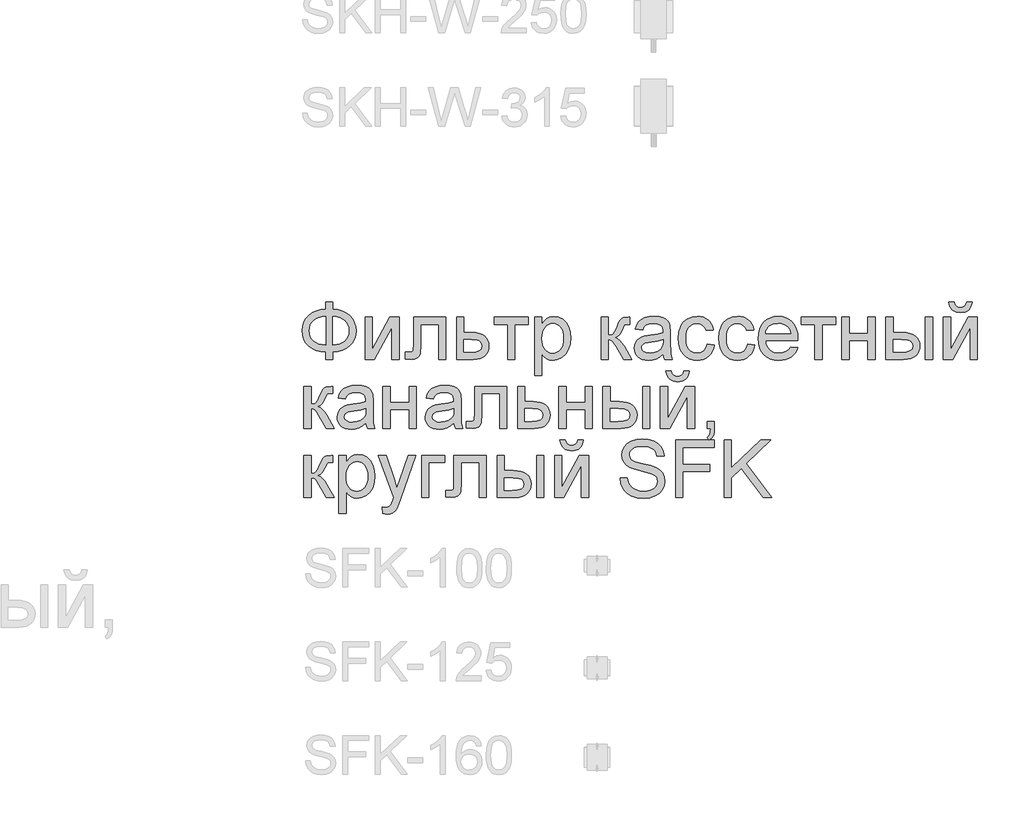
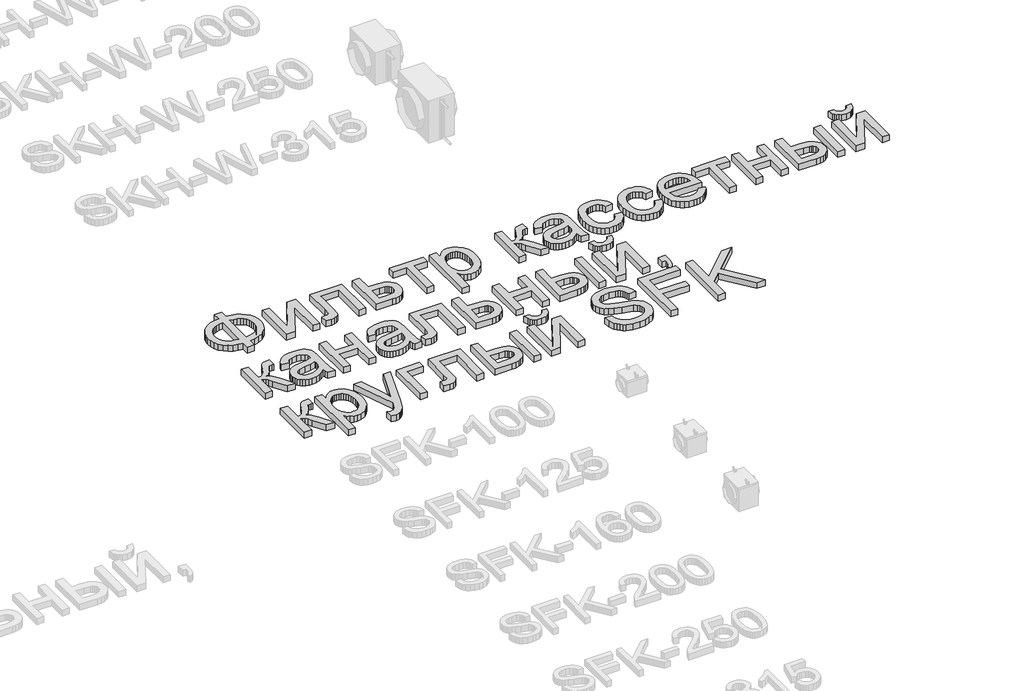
# One storey, part 14 of 31: 1 proxy.
"""IFC4 building model written with IfcOpenShell, lengths in millimetres."""

from ifc_helpers import new_model, si_unit, origin, origin_with_axes, place, context, project, spatial, polyline, outline, extrude, element, save

model = new_model("IFC4")

# Units and contexts
model_context = context("Model", 3, world=origin())
ifc_project = project(units=[si_unit("LENGTHUNIT", "METRE", prefix="MILLI")], contexts=[model_context])

# Site, building, storey
site = spatial("IfcSite", under=ifc_project)
building = spatial("IfcBuilding", under=site)
storey = spatial("IfcBuildingStorey", under=building, Name="Этаж 01", Elevation=0.0)

# Proxy
placement = place(None, origin())
element("IfcBuildingElementProxy", 1, Name="450 мм Arial", ObjectType="450 мм Arial", at=placement, inside=storey, context=model_context, shape_type="SweptSolid", body=[
    extrude(outline(polyline([(10580.6804655, -7888.9373317), (10580.6804655, -7832.7303139), (10636.8874833, -7832.7303139), (10636.8874833, -7888.9373317), (10676.9809536, -7893.8911241), (10712.6214998, -7904.1417692), (10743.8091218, -7919.689267), (10770.5438197, -7940.5336176), (10791.988526, -7965.4603872), (10807.3061734, -7993.2551417), (10816.4967619, -8023.9178813), (10819.5602913, -8057.4486059), (10816.5928188, -8090.3069322), (10807.6904011, -8120.5991665), (10792.8530383, -8148.325309), (10772.0807303, -8173.4853596), (10745.826317, -8194.686493), (10714.5426381, -8210.5358841), (10678.2296935, -8221.0335327), (10636.8874833, -8226.1794388), (10636.8874833, -8282.3864567), (10580.6804655, -8282.3864567), (10580.6804655, -8226.1794388), (10543.1290728, -8221.9906712), (10508.8573377, -8212.4981896), (10477.8652601, -8197.7019941), (10450.15284, -8177.6020845), (10427.3393226, -8153.0286673), (10411.0439531, -8124.8119484), (10401.2667313, -8092.951928), (10398.0076574, -8057.4486059), (10401.2564395, -8021.7840455), (10411.0027858, -7989.8794273), (10427.2466963, -7961.7347511), (10449.988171, -7937.350017), (10477.649132, -7917.4456519), (10508.6515014, -7902.7420827), (10542.9952792, -7893.2393093), (10580.6804655, -7888.9373317)]), holes=[polyline([(10636.8874833, -7945.1443496), (10636.8874833, -8169.972421), (10664.7439887, -8166.991226), (10689.4717832, -8160.682345), (10711.0708667, -8151.0457781), (10729.5412393, -8138.0815251), (10744.3340043, -8122.0777569), (10754.9002649, -8103.3226442), (10761.2400213, -8081.816187), (10763.3532735, -8057.5583853), (10761.277758, -8033.6745194), (10755.0512115, -8012.4116351), (10744.6736341, -7993.7697323), (10730.1450256, -7977.7488111), (10711.8633363, -7964.6782094), (10690.2265161, -7954.8872653), (10665.2345651, -7948.3759787), (10636.8874833, -7945.1443496)]), polyline([(10580.6804655, -7945.1443496), (10553.7605149, -7947.9711674), (10529.5370193, -7954.1462548), (10508.0099784, -7963.6696118), (10489.1793924, -7976.5412385), (10473.8823287, -7992.5141312), (10462.9558546, -8011.3412866), (10456.3999701, -8033.0227046), (10454.2146753, -8057.5583853), (10456.3725253, -8081.8710767), (10462.8460752, -8103.4324235), (10473.6353252, -8122.2424259), (10488.7402751, -8138.3010838), (10507.433637, -8151.2927816), (10528.9881226, -8160.9019037), (10553.4037321, -8167.1284502), (10580.6804655, -8169.972421), (10580.6804655, -7945.1443496)])]), origin_with_axes(), (0.0, 0.0, 1.0), 50.0),
    extrude(outline(polyline([(10889.8190636, -7952.1702268), (10946.0260815, -7952.1702268), (10946.0260815, -8204.0040138), (11084.1284808, -7952.1702268), (11156.8023984, -7952.1702268), (11156.8023984, -8282.3864567), (11100.5953806, -8282.3864567), (11100.5953806, -8032.0895803), (10963.3712159, -8282.3864567), (10889.8190636, -8282.3864567), (10889.8190636, -7952.1702268)])), origin_with_axes(), (0.0, 0.0, 1.0), 50.0),
    extrude(outline(polyline([(11269.2164341, -7952.1702268), (11522.1480145, -7952.1702268), (11522.1480145, -8282.0571187), (11465.9409966, -8282.0571187), (11465.9409966, -8008.3772447), (11325.423452, -8008.3772447), (11325.423452, -8165.9105857), (11321.6360651, -8238.5845033), (11314.5415757, -8255.0376807), (11300.8328817, -8269.2678265), (11280.0296983, -8279.1067992), (11251.6517411, -8282.3864567), (11205.9835391, -8279.5321941), (11205.9835391, -8226.1794388), (11231.123006, -8226.1794388), (11256.5369213, -8222.7213899), (11262.8904002, -8218.2478821), (11266.6915095, -8211.7434567), (11269.2164341, -8162.7269851), (11269.2164341, -7952.1702268)])), origin_with_axes(), (0.0, 0.0, 1.0), 50.0),
    extrude(outline(polyline([(11606.4585413, -7952.1702268), (11662.6655591, -7952.1702268), (11662.6655591, -8071.6101397), (11727.4353648, -8071.6101397), (11757.3365103, -8073.3700397), (11783.587493, -8078.6497394), (11806.1883129, -8087.449239), (11825.1389701, -8099.7685383), (11840.1238489, -8115.1822426), (11850.8273337, -8133.2649569), (11857.2494246, -8154.0166812), (11859.3901216, -8177.4374155), (11857.5684708, -8198.3332252), (11852.1035184, -8217.6578182), (11842.9952645, -8235.4111945), (11830.243709, -8251.5933541), (11813.4852079, -8265.0653365), (11792.3561171, -8274.6881811), (11766.8564367, -8280.4618878), (11736.9861667, -8282.3864567), (11606.4585413, -8282.3864567), (11606.4585413, -7952.1702268)]), holes=[polyline([(11662.6655591, -8226.1794388), (11715.1400797, -8226.1794388), (11755.8544893, -8223.2291193), (11782.928817, -8214.3781607), (11798.1195321, -8199.2697801), (11803.1831037, -8177.5471949), (11799.436884, -8159.1866016), (11788.198225, -8142.9667054), (11778.431295, -8136.3387782), (11764.1153841, -8131.6045445), (11721.8366189, -8127.8171576), (11662.6655591, -8127.8171576), (11662.6655591, -8226.1794388)])]), origin_with_axes(), (0.0, 0.0, 1.0), 50.0),
    extrude(outline(polyline([(11901.545385, -7952.1702268), (12168.5287198, -7952.1702268), (12168.5287198, -8008.3772447), (12063.1405613, -8008.3772447), (12063.1405613, -8282.3864567), (12006.9335435, -8282.3864567), (12006.9335435, -8008.3772447), (11901.545385, -8008.3772447), (11901.545385, -7952.1702268)])), origin_with_axes(), (0.0, 0.0, 1.0), 50.0),
    extrude(outline(polyline([(12217.7098604, -8408.8522469), (12217.7098604, -7952.1702268), (12273.9168783, -7952.1702268), (12273.9168783, -8007.2794513), (12292.2500267, -7980.0953443), (12312.7787617, -7960.678125), (12336.710656, -7949.0277934), (12365.2532823, -7945.1443496), (12403.2643759, -7950.5784265), (12436.5000686, -7966.8806573), (12463.5606738, -7993.0630279), (12483.0465052, -8028.1375244), (12494.8203386, -8069.5517773), (12498.7449497, -8114.7534171), (12494.3126091, -8162.823042), (12481.0155876, -8205.8153728), (12459.2792799, -8241.5485453), (12429.529081, -8267.8406952), (12394.8799794, -8284.0194242), (12358.4469637, -8289.4123339), (12332.6076535, -8285.8033384), (12309.5402714, -8274.9763518), (12289.7937141, -8258.6329538), (12273.9168783, -8238.474724), (12273.9168783, -8408.8522469), (12217.7098604, -8408.8522469)]), holes=[polyline([(12273.9168783, -8119.9130457), (12275.4366359, -8147.0010958), (12279.9959087, -8170.301759), (12287.5946969, -8189.8150352), (12298.2330002, -8205.5409245), (12311.0394454, -8217.6440958), (12325.1426589, -8226.2892182), (12340.5426408, -8231.4762916), (12357.239391, -8233.2053161), (12374.1762836, -8231.4145407), (12389.857575, -8226.0422147), (12404.2832653, -8217.0883379), (12417.4533545, -8204.5529105), (12428.4278571, -8188.2575409), (12436.2667875, -8168.0238378), (12440.9701457, -8143.8518012), (12442.5379318, -8115.7414311), (12441.0078824, -8088.8866621), (12436.4177341, -8065.6271662), (12428.7674869, -8045.9629434), (12418.0571408, -8029.8939937), (12405.2198202, -8017.4065947), (12391.1886494, -8008.487024), (12375.9636283, -8003.1352816), (12359.544757, -8001.3513674), (12343.1773448, -8003.2484915), (12327.7773629, -8008.9398637), (12313.3448114, -8018.4254841), (12299.8796902, -8031.7053527), (12288.52096, -8048.6010779), (12280.4075812, -8068.9342685), (12275.539554, -8092.7049245), (12273.9168783, -8119.9130457)])]), origin_with_axes(), (0.0, 0.0, 1.0), 50.0),
    extrude(outline(polyline([(12737.6247755, -7952.1702268), (12793.8317934, -7952.1702268), (12793.8317934, -8092.6877714), (12816.6933392, -8090.1628468), (12831.4861042, -8082.5880729), (12844.5772895, -8062.8277932), (12862.3340964, -8023.7463511), (12876.6465768, -7991.7868432), (12887.9675704, -7972.9734102), (12898.533831, -7962.7227651), (12910.5821127, -7956.4516207), (12951.6944724, -7952.1702268), (12962.4528469, -7952.1702268), (12962.4528469, -8008.7065827), (12947.3032992, -8008.3772447), (12929.7386061, -8009.8592656), (12919.8584662, -8014.3053286), (12900.5373038, -8051.3009634), (12888.6674136, -8075.9601458), (12877.8678718, -8091.3155298), (12864.7904089, -8101.5661749), (12846.0867553, -8110.9111405), (12863.8984519, -8118.8221136), (12881.5454794, -8132.7846724), (12899.027838, -8152.7988168), (12916.3455276, -8178.8645469), (12976.5046014, -8282.3864567), (12912.6130303, -8282.3864567), (12853.6615292, -8181.0601335), (12837.7435261, -8154.0955851), (12824.0211096, -8138.1913044), (12810.161469, -8130.4106943), (12793.8317934, -8127.8171576), (12793.8317934, -8282.3864567), (12737.6247755, -8282.3864567), (12737.6247755, -7952.1702268)])), origin_with_axes(), (0.0, 0.0, 1.0), 50.0),
    extrude(outline(polyline([(13222.4103045, -8240.2311933), (13195.5555355, -8263.2574081), (13167.9048663, -8278.3246214), (13138.8270658, -8286.6404058), (13107.6909028, -8289.4123339), (13082.6646458, -8287.7450603), (13060.7190713, -8282.7432395), (13041.8541792, -8274.4068715), (13026.0699697, -8262.7359563), (13013.6065849, -8248.4715044), (13004.7041672, -8232.3545262), (12999.3627166, -8214.3850219), (12997.5822331, -8194.5629913), (13000.2718267, -8171.2623281), (13008.3406076, -8150.1023619), (13020.7868393, -8131.9887722), (13036.6087855, -8117.8272384), (13055.2026598, -8107.1237536), (13075.964676, -8099.3843107), (13124.5969199, -8090.9313021), (13182.0664001, -8082.0391763), (13222.0809665, -8071.6101397), (13222.4103045, -8059.0952959), (13218.5405831, -8034.0107186), (13206.9314187, -8017.5987085), (13180.9686068, -8005.4132027), (13144.796317, -8001.3513674), (13111.3136208, -8004.0546835), (13087.9306231, -8012.1646316), (13071.9851752, -8027.1632328), (13060.8151282, -8050.532508), (13004.6081103, -8043.5066308), (13014.3647484, -8012.7684179), (13028.9242323, -7988.6169649), (13049.6450812, -7970.1465924), (13077.8858143, -7956.4516207), (13112.4251365, -7947.9711674), (13152.0417529, -7945.1443496), (13190.0391241, -7947.6418294), (13220.1598282, -7955.1342688), (13242.8704275, -7966.4003727), (13258.637484, -7980.2188461), (13269.0939653, -7997.3032546), (13275.8728391, -8018.3671638), (13278.6173224, -8067.5483045), (13278.6173224, -8137.4777388), (13281.471585, -8235.1264544), (13292.6690768, -8282.3864567), (13236.462059, -8282.3864567), (13227.4601538, -8262.8457356), (13222.4103045, -8240.2311933)]), holes=[polyline([(13222.4103045, -8127.8171576), (13184.6462144, -8137.1758456), (13131.7325765, -8145.0525127), (13083.3747809, -8154.1641972), (13070.791325, -8160.3941743), (13061.4738042, -8168.984407), (13055.7103893, -8179.2762194), (13053.789251, -8190.6109354), (13057.974588, -8207.3248386), (13070.530599, -8221.0198102), (13091.1828358, -8230.1589396), (13119.65685, -8233.2053161), (13149.8461662, -8229.843324), (13176.5225438, -8219.7573479), (13198.1490722, -8204.8959709), (13213.1888406, -8187.2077761), (13219.857935, -8168.984407), (13222.0809665, -8143.7351607), (13222.4103045, -8127.8171576)])]), origin_with_axes(), (0.0, 0.0, 1.0), 50.0),
    extrude(outline(polyline([(13566.6782889, -8162.9465438), (13622.8853067, -8169.972421), (13616.7719702, -8196.4944214), (13607.2143071, -8219.9631842), (13594.2123175, -8240.3787093), (13577.7660014, -8257.7409967), (13558.5683407, -8271.5972067), (13537.3123176, -8281.4944996), (13513.997932, -8287.4328753), (13488.625184, -8289.4123339), (13457.1013628, -8286.6506976), (13428.8366154, -8278.3657887), (13403.830942, -8264.5576071), (13382.0843425, -8245.2261529), (13364.4819128, -8220.7350701), (13351.9087487, -8191.4480028), (13344.3648503, -8157.3649509), (13341.8502174, -8118.4859144), (13346.1453338, -8068.4677064), (13359.0306829, -8025.1185928), (13368.7461537, -8006.36348), (13380.7121009, -7990.1127083), (13394.9285243, -7976.3662776), (13411.3954241, -7965.124188), (13448.1028882, -7950.1393092), (13487.8567287, -7945.1443496), (13512.79379, -7946.8596516), (13535.3500121, -7952.0055578), (13555.5253949, -7960.5820681), (13573.3199384, -7972.5891825), (13588.4317496, -7987.7524527), (13600.5589351, -8005.7974304), (13609.7014951, -8026.7241155), (13615.8594295, -8050.532508), (13559.6524116, -8057.5583853), (13549.4566562, -8033.0364271), (13533.5798203, -8015.4580116), (13512.9001387, -8004.8780285), (13488.295846, -8001.3513674), (13469.1976729, -8003.0872531), (13451.9726096, -8008.2949102), (13436.6206562, -8016.9743386), (13423.1418126, -8029.1255384), (13412.16731, -8045.029819), (13404.3283796, -8064.9684902), (13399.6250214, -8088.9415517), (13398.0572353, -8116.9490038), (13399.5907153, -8145.3784201), (13404.1911555, -8169.6293606), (13411.8585557, -8189.7018253), (13422.5929159, -8205.5958141), (13435.8041724, -8217.6749712), (13450.9022611, -8226.3029406), (13467.8871821, -8231.4797222), (13486.7589353, -8233.2053161), (13515.8641807, -8228.8964773), (13539.7274629, -8215.969961), (13557.0863197, -8194.0964291), (13566.6782889, -8162.9465438)])), origin_with_axes(), (0.0, 0.0, 1.0), 50.0),
    extrude(outline(polyline([(13882.8427643, -8162.9465438), (13939.0497821, -8169.972421), (13932.9364456, -8196.4944214), (13923.3787825, -8219.9631842), (13910.3767929, -8240.3787093), (13893.9304768, -8257.7409967), (13874.7328161, -8271.5972067), (13853.476793, -8281.4944996), (13830.1624075, -8287.4328753), (13804.7896594, -8289.4123339), (13773.2658382, -8286.6506976), (13745.0010909, -8278.3657887), (13719.9954174, -8264.5576071), (13698.2488179, -8245.2261529), (13680.6463882, -8220.7350701), (13668.0732241, -8191.4480028), (13660.5293257, -8157.3649509), (13658.0146929, -8118.4859144), (13662.3098092, -8068.4677064), (13675.1951583, -8025.1185928), (13684.9106291, -8006.36348), (13696.8765763, -7990.1127083), (13711.0929998, -7976.3662776), (13727.5598995, -7965.124188), (13764.2673636, -7950.1393092), (13804.0212041, -7945.1443496), (13828.9582654, -7946.8596516), (13851.5144875, -7952.0055578), (13871.6898703, -7960.5820681), (13889.4844138, -7972.5891825), (13904.596225, -7987.7524527), (13916.7234105, -8005.7974304), (13925.8659705, -8026.7241155), (13932.0239049, -8050.532508), (13875.816887, -8057.5583853), (13865.6211316, -8033.0364271), (13849.7442958, -8015.4580116), (13829.0646141, -8004.8780285), (13804.4603214, -8001.3513674), (13785.3621483, -8003.0872531), (13768.137085, -8008.2949102), (13752.7851316, -8016.9743386), (13739.306288, -8029.1255384), (13728.3317854, -8045.029819), (13720.492855, -8064.9684902), (13715.7894968, -8088.9415517), (13714.2217107, -8116.9490038), (13715.7551908, -8145.3784201), (13720.3556309, -8169.6293606), (13728.0230311, -8189.7018253), (13738.7573914, -8205.5958141), (13751.9686478, -8217.6749712), (13767.0667365, -8226.3029406), (13784.0516575, -8231.4797222), (13802.9234108, -8233.2053161), (13832.0286561, -8228.8964773), (13855.8919383, -8215.969961), (13873.2507952, -8194.0964291), (13882.8427643, -8162.9465438)])), origin_with_axes(), (0.0, 0.0, 1.0), 50.0),
    extrude(outline(polyline([(14219.4261954, -8184.0241754), (14274.5354199, -8191.0500527), (14266.085842, -8213.1225596), (14254.6790833, -8232.5740849), (14240.3151439, -8249.4046287), (14222.9940237, -8263.614191), (14202.8941142, -8274.9008785), (14180.1938067, -8282.9627982), (14154.8931013, -8287.79995), (14126.9919981, -8289.4123339), (14092.1164766, -8286.630114), (14061.0420645, -8278.2834542), (14033.7687618, -8264.3723545), (14010.2965684, -8244.8968149), (13991.4213846, -8220.3988709), (13977.9391104, -8191.4205579), (13969.8497459, -8157.961876), (13967.153291, -8120.022825), (13969.8771907, -8080.7972976), (13978.0488897, -8046.2236693), (13991.6683881, -8016.3019402), (14010.7356858, -7991.0321102), (14034.1461282, -7970.956215), (14060.795061, -7956.6162897), (14090.6824841, -7948.0123346), (14123.8083974, -7945.1443496), (14155.8673929, -7948.0054734), (14184.8594283, -7956.5888449), (14210.7845036, -7970.8944641), (14233.6426189, -7990.9223309), (14252.3016746, -8016.1372712), (14265.6295716, -8046.0041106), (14273.6263098, -8080.5228492), (14276.2918892, -8119.693487), (14275.9625512, -8134.8430348), (14023.3603089, -8134.8430348), (14026.6159522, -8157.2723245), (14033.0895022, -8176.9159637), (14042.7809588, -8193.7739523), (14055.6903221, -8207.8462904), (14071.1040264, -8218.9408642), (14088.308506, -8226.8655597), (14107.303761, -8231.620377), (14128.0897914, -8233.2053161), (14158.0046593, -8230.2687189), (14183.1990159, -8221.4589276), (14203.6728613, -8206.2270453), (14219.4261954, -8184.0241754)]), holes=[polyline([(14023.3603089, -8078.636017), (14220.0848714, -8078.636017), (14212.4826527, -8048.9407077), (14197.5801084, -8027.698407), (14182.2521692, -8016.1715772), (14164.8109779, -8007.9381273), (14145.2565344, -8002.9980574), (14123.5888388, -8001.3513674), (14085.7012469, -8006.6070529), (14054.3729701, -8022.3741095), (14041.9164466, -8033.7740069), (14032.5954952, -8046.9509574), (14026.410116, -8061.9049607), (14023.3603089, -8078.636017)])]), origin_with_axes(), (0.0, 0.0, 1.0), 50.0),
    extrude(outline(polyline([(14304.3953982, -7952.1702268), (14571.378733, -7952.1702268), (14571.378733, -8008.3772447), (14465.9905745, -8008.3772447), (14465.9905745, -8282.3864567), (14409.7835566, -8282.3864567), (14409.7835566, -8008.3772447), (14304.3953982, -8008.3772447), (14304.3953982, -7952.1702268)])), origin_with_axes(), (0.0, 0.0, 1.0), 50.0),
    extrude(outline(polyline([(14620.5598736, -7952.1702268), (14676.7668914, -7952.1702268), (14676.7668914, -8078.636017), (14824.3103133, -8078.636017), (14824.3103133, -7952.1702268), (14880.5173311, -7952.1702268), (14880.5173311, -8282.3864567), (14824.3103133, -8282.3864567), (14824.3103133, -8134.8430348), (14676.7668914, -8134.8430348), (14676.7668914, -8282.3864567), (14620.5598736, -8282.3864567), (14620.5598736, -7952.1702268)])), origin_with_axes(), (0.0, 0.0, 1.0), 50.0),
    extrude(outline(polyline([(15273.9664561, -7952.1702268), (15330.173474, -7952.1702268), (15330.173474, -8282.3864567), (15273.9664561, -8282.3864567), (15273.9664561, -7952.1702268)])), origin_with_axes(), (0.0, 0.0, 1.0), 50.0),
    extrude(outline(polyline([(14964.8278579, -7952.1702268), (15021.0348758, -7952.1702268), (15021.0348758, -8071.6101397), (15090.5251928, -8071.6101397), (15122.5018537, -8073.3700397), (15150.5882096, -8078.6497394), (15174.7842605, -8087.449239), (15195.0900063, -8099.7685383), (15211.1555253, -8115.1822426), (15222.6308961, -8133.2649569), (15229.5161186, -8154.0166812), (15231.8111927, -8177.4374155), (15229.8866238, -8198.3332252), (15224.1129171, -8217.6578182), (15214.4900725, -8235.4111945), (15201.0180902, -8251.5933541), (15183.3196035, -8265.0653365), (15161.0172462, -8274.6881811), (15134.1110181, -8280.4618878), (15102.6009193, -8282.3864567), (14964.8278579, -8282.3864567), (14964.8278579, -7952.1702268)]), holes=[polyline([(15021.0348758, -8226.1794388), (15078.7788043, -8226.1794388), (15123.5413268, -8223.2291193), (15153.3189705, -8214.3781607), (15170.0328738, -8199.2697801), (15175.6041749, -8177.5471949), (15171.4737275, -8159.1866016), (15159.0823854, -8142.9667054), (15148.3274415, -8136.3387782), (15132.5843992, -8131.6045445), (15086.1340195, -8127.8171576), (15021.0348758, -8127.8171576), (15021.0348758, -8226.1794388)])]), origin_with_axes(), (0.0, 0.0, 1.0), 50.0),
    extrude(outline(polyline([(15414.4840007, -7952.1702268), (15470.6910186, -7952.1702268), (15470.6910186, -8204.0040138), (15608.7934179, -7952.1702268), (15681.4673355, -7952.1702268), (15681.4673355, -8282.3864567), (15625.2603177, -8282.3864567), (15625.2603177, -8032.0895803), (15488.036153, -8282.3864567), (15414.4840007, -8282.3864567), (15414.4840007, -7952.1702268)])), origin_with_axes(), (0.0, 0.0, 1.0), 50.0),
    extrude(outline(polyline([(15597.1568088, -7832.7303139), (15639.3120722, -7832.7303139), (15630.2415549, -7868.7242123), (15622.2791227, -7883.1704862), (15612.0319082, -7895.2496433), (15599.7057476, -7904.7832921), (15585.5064772, -7911.5930413), (15551.4886068, -7917.0408407), (15514.5753065, -7911.6342086), (15499.2267836, -7904.8759185), (15485.9503457, -7895.4143123), (15474.9381065, -7883.3866143), (15466.3821798, -7868.9300485), (15456.6392641, -7832.7303139), (15498.7945275, -7832.7303139), (15504.7226114, -7851.2418537), (15514.6027513, -7864.4016511), (15528.4898368, -7872.2645957), (15546.4387575, -7874.8855773), (15566.6930442, -7872.3469302), (15581.348585, -7864.7309891), (15591.2287248, -7851.6535262), (15597.1568088, -7832.7303139)])), origin_with_axes(), (0.0, 0.0, 1.0), 50.0),
    extrude(outline(polyline([(10412.0594119, -8492.60231), (10468.2664298, -8492.60231), (10468.2664298, -8633.1198546), (10491.1279756, -8630.59493), (10505.9207405, -8623.0201561), (10519.0119258, -8603.2598764), (10536.7687328, -8564.1784343), (10551.0812131, -8532.2189263), (10562.4022067, -8513.4054934), (10572.9684674, -8503.1548482), (10585.0167491, -8496.8837039), (10626.1291088, -8492.60231), (10636.8874833, -8492.60231), (10636.8874833, -8549.1386658), (10621.7379355, -8548.8093278), (10604.1732424, -8550.2913488), (10594.2931026, -8554.7374118), (10574.9719402, -8591.7330465), (10563.10205, -8616.3922289), (10552.3025082, -8631.747613), (10539.2250453, -8641.9982581), (10520.5213917, -8651.3432237), (10538.3330882, -8659.2541968), (10555.9801158, -8673.2167555), (10573.4624744, -8693.2309), (10590.780164, -8719.29663), (10650.9392378, -8822.8185399), (10587.0476667, -8822.8185399), (10528.0961656, -8721.4922167), (10512.1781624, -8694.5276683), (10498.455746, -8678.6233876), (10484.5961053, -8670.8427775), (10468.2664298, -8668.2492408), (10468.2664298, -8822.8185399), (10412.0594119, -8822.8185399), (10412.0594119, -8492.60231)])), origin_with_axes(), (0.0, 0.0, 1.0), 50.0),
    extrude(outline(polyline([(10896.8449409, -8780.6632765), (10869.9901718, -8803.6894913), (10842.3395027, -8818.7567046), (10813.2617022, -8827.072489), (10782.1255392, -8829.8444171), (10757.0992822, -8828.1771435), (10735.1537076, -8823.1753227), (10716.2888156, -8814.8389547), (10700.5046061, -8803.1680395), (10688.0412213, -8788.9035876), (10679.1388036, -8772.7866094), (10673.797353, -8754.8171051), (10672.0168695, -8734.9950745), (10674.7064631, -8711.6944113), (10682.775244, -8690.5344451), (10695.2214757, -8672.4208554), (10711.0434219, -8658.2593216), (10729.6372962, -8647.5558367), (10750.3993123, -8639.8163939), (10799.0315563, -8631.3633853), (10856.5010365, -8622.4712594), (10896.5156029, -8612.0422229), (10896.8449409, -8599.5273791), (10892.9752194, -8574.4428018), (10881.3660551, -8558.0307917), (10855.4032431, -8545.8452859), (10819.2309533, -8541.7834506), (10785.7482572, -8544.4867667), (10762.3652595, -8552.5967148), (10746.4198116, -8567.595316), (10735.2497645, -8590.9645912), (10679.0427467, -8583.938714), (10688.7993848, -8553.2005011), (10703.3588687, -8529.0490481), (10724.0797175, -8510.5786756), (10752.3204506, -8496.8837039), (10786.8597729, -8488.4032505), (10826.4763892, -8485.5764328), (10864.4737604, -8488.0739126), (10894.5944646, -8495.5663519), (10917.3050638, -8506.8324559), (10933.0721203, -8520.6509292), (10943.5286017, -8537.7353377), (10950.3074754, -8558.799247), (10953.0519587, -8607.9803876), (10953.0519587, -8677.909822), (10955.9062214, -8775.5585376), (10967.1037132, -8822.8185399), (10910.8966953, -8822.8185399), (10901.8947901, -8803.2778188), (10896.8449409, -8780.6632765)]), holes=[polyline([(10896.8449409, -8668.2492408), (10859.0808508, -8677.6079288), (10806.1672129, -8685.4845959), (10757.8094172, -8694.5962804), (10745.2259613, -8700.8262575), (10735.9084405, -8709.4164902), (10730.1450256, -8719.7083025), (10728.2238873, -8731.0430185), (10732.4092243, -8747.7569218), (10744.9652354, -8761.4518934), (10765.6174722, -8770.5910228), (10794.0914864, -8773.6373992), (10824.2808026, -8770.2754072), (10850.9571802, -8760.1894311), (10872.5837086, -8745.3280541), (10887.623477, -8727.6398592), (10894.2925714, -8709.4164902), (10896.5156029, -8684.1672439), (10896.8449409, -8668.2492408)])]), origin_with_axes(), (0.0, 0.0, 1.0), 50.0),
    extrude(outline(polyline([(11030.3366083, -8492.60231), (11086.5436261, -8492.60231), (11086.5436261, -8619.0681002), (11234.087048, -8619.0681002), (11234.087048, -8492.60231), (11290.2940658, -8492.60231), (11290.2940658, -8822.8185399), (11234.087048, -8822.8185399), (11234.087048, -8675.275118), (11086.5436261, -8675.275118), (11086.5436261, -8822.8185399), (11030.3366083, -8822.8185399), (11030.3366083, -8492.60231)])), origin_with_axes(), (0.0, 0.0, 1.0), 50.0),
    extrude(outline(polyline([(11585.3809096, -8780.6632765), (11558.5261405, -8803.6894913), (11530.8754714, -8818.7567046), (11501.7976709, -8827.072489), (11470.6615079, -8829.8444171), (11445.6352509, -8828.1771435), (11423.6896763, -8823.1753227), (11404.8247843, -8814.8389547), (11389.0405747, -8803.1680395), (11376.57719, -8788.9035876), (11367.6747723, -8772.7866094), (11362.3333217, -8754.8171051), (11360.5528382, -8734.9950745), (11363.2424318, -8711.6944113), (11371.3112127, -8690.5344451), (11383.7574444, -8672.4208554), (11399.5793906, -8658.2593216), (11418.1732649, -8647.5558367), (11438.935281, -8639.8163939), (11487.567525, -8631.3633853), (11545.0370051, -8622.4712594), (11585.0515716, -8612.0422229), (11585.3809096, -8599.5273791), (11581.5111881, -8574.4428018), (11569.9020238, -8558.0307917), (11543.9392118, -8545.8452859), (11507.766922, -8541.7834506), (11474.2842258, -8544.4867667), (11450.9012282, -8552.5967148), (11434.9557802, -8567.595316), (11423.7857332, -8590.9645912), (11367.5787154, -8583.938714), (11377.3353535, -8553.2005011), (11391.8948374, -8529.0490481), (11412.6156862, -8510.5786756), (11440.8564193, -8496.8837039), (11475.3957416, -8488.4032505), (11515.0123579, -8485.5764328), (11553.0097291, -8488.0739126), (11583.1304333, -8495.5663519), (11605.8410325, -8506.8324559), (11621.608089, -8520.6509292), (11632.0645704, -8537.7353377), (11638.8434441, -8558.799247), (11641.5879274, -8607.9803876), (11641.5879274, -8677.909822), (11644.44219, -8775.5585376), (11655.6396819, -8822.8185399), (11599.432664, -8822.8185399), (11590.4307588, -8803.2778188), (11585.3809096, -8780.6632765)]), holes=[polyline([(11585.3809096, -8668.2492408), (11547.6168194, -8677.6079288), (11494.7031815, -8685.4845959), (11446.3453859, -8694.5962804), (11433.76193, -8700.8262575), (11424.4444092, -8709.4164902), (11418.6809943, -8719.7083025), (11416.759856, -8731.0430185), (11420.945193, -8747.7569218), (11433.5012041, -8761.4518934), (11454.1534409, -8770.5910228), (11482.6274551, -8773.6373992), (11512.8167713, -8770.2754072), (11539.4931489, -8760.1894311), (11561.1196772, -8745.3280541), (11576.1594457, -8727.6398592), (11582.8285401, -8709.4164902), (11585.0515716, -8684.1672439), (11585.3809096, -8668.2492408)])]), origin_with_axes(), (0.0, 0.0, 1.0), 50.0),
    extrude(outline(polyline([(11746.9760859, -8492.60231), (11999.9076662, -8492.60231), (11999.9076662, -8822.4892019), (11943.7006484, -8822.4892019), (11943.7006484, -8548.8093278), (11803.1831037, -8548.8093278), (11803.1831037, -8706.3426689), (11799.3957168, -8779.0165865), (11792.3012275, -8795.4697638), (11778.5925334, -8809.6999097), (11757.7893501, -8819.5388823), (11729.4113928, -8822.8185399), (11683.7431908, -8819.9642772), (11683.7431908, -8766.611522), (11708.8826578, -8766.611522), (11734.2965731, -8763.1534731), (11740.6500519, -8758.6799653), (11744.4511613, -8752.1755399), (11746.9760859, -8703.1590683), (11746.9760859, -8492.60231)])), origin_with_axes(), (0.0, 0.0, 1.0), 50.0),
    extrude(outline(polyline([(12084.218193, -8492.60231), (12140.4252109, -8492.60231), (12140.4252109, -8612.0422229), (12205.1950166, -8612.0422229), (12235.0961621, -8613.8021228), (12261.3471448, -8619.0818226), (12283.9479647, -8627.8813221), (12302.8986218, -8640.2006215), (12317.8835006, -8655.6143258), (12328.5869855, -8673.6970401), (12335.0090764, -8694.4487644), (12337.1497733, -8717.8694987), (12335.3281225, -8738.7653084), (12329.8631702, -8758.0899014), (12320.7549163, -8775.8432777), (12308.0033608, -8792.0254373), (12291.2448596, -8805.4974197), (12270.1157689, -8815.1202642), (12244.6160885, -8820.893971), (12214.7458184, -8822.8185399), (12084.218193, -8822.8185399), (12084.218193, -8492.60231)]), holes=[polyline([(12140.4252109, -8766.611522), (12192.8997314, -8766.611522), (12233.6141411, -8763.6612025), (12260.6884688, -8754.8102439), (12275.8791838, -8739.7018633), (12280.9427555, -8717.9792781), (12277.1965358, -8699.6186848), (12265.9578767, -8683.3987886), (12256.1909468, -8676.7708614), (12241.8750358, -8672.0366277), (12199.5962707, -8668.2492408), (12140.4252109, -8668.2492408), (12140.4252109, -8766.611522)])]), origin_with_axes(), (0.0, 0.0, 1.0), 50.0),
    extrude(outline(polyline([(12407.4085457, -8492.60231), (12463.6155635, -8492.60231), (12463.6155635, -8619.0681002), (12611.1589854, -8619.0681002), (12611.1589854, -8492.60231), (12667.3660032, -8492.60231), (12667.3660032, -8822.8185399), (12611.1589854, -8822.8185399), (12611.1589854, -8675.275118), (12463.6155635, -8675.275118), (12463.6155635, -8822.8185399), (12407.4085457, -8822.8185399), (12407.4085457, -8492.60231)])), origin_with_axes(), (0.0, 0.0, 1.0), 50.0),
    extrude(outline(polyline([(13060.8151282, -8492.60231), (13117.022146, -8492.60231), (13117.022146, -8822.8185399), (13060.8151282, -8822.8185399), (13060.8151282, -8492.60231)])), origin_with_axes(), (0.0, 0.0, 1.0), 50.0),
    extrude(outline(polyline([(12751.67653, -8492.60231), (12807.8835478, -8492.60231), (12807.8835478, -8612.0422229), (12877.3738648, -8612.0422229), (12909.3505258, -8613.8021228), (12937.4368817, -8619.0818226), (12961.6329326, -8627.8813221), (12981.9386783, -8640.2006215), (12998.0041974, -8655.6143258), (13009.4795682, -8673.6970401), (13016.3647906, -8694.4487644), (13018.6598648, -8717.8694987), (13016.7352959, -8738.7653084), (13010.9615892, -8758.0899014), (13001.3387446, -8775.8432777), (12987.8667622, -8792.0254373), (12970.1682756, -8805.4974197), (12947.8659182, -8815.1202642), (12920.9596901, -8820.893971), (12889.4495913, -8822.8185399), (12751.67653, -8822.8185399), (12751.67653, -8492.60231)]), holes=[polyline([(12807.8835478, -8766.611522), (12865.6274763, -8766.611522), (12910.3899989, -8763.6612025), (12940.1676426, -8754.8102439), (12956.8815459, -8739.7018633), (12962.4528469, -8717.9792781), (12958.3223996, -8699.6186848), (12945.9310575, -8683.3987886), (12935.1761136, -8676.7708614), (12919.4330713, -8672.0366277), (12872.9826916, -8668.2492408), (12807.8835478, -8668.2492408), (12807.8835478, -8766.611522)])]), origin_with_axes(), (0.0, 0.0, 1.0), 50.0),
    extrude(outline(polyline([(13201.3326728, -8492.60231), (13257.5396907, -8492.60231), (13257.5396907, -8744.436097), (13395.64209, -8492.60231), (13468.3160076, -8492.60231), (13468.3160076, -8822.8185399), (13412.1089898, -8822.8185399), (13412.1089898, -8572.5216635), (13274.8848251, -8822.8185399), (13201.3326728, -8822.8185399), (13201.3326728, -8492.60231)])), origin_with_axes(), (0.0, 0.0, 1.0), 50.0),
    extrude(outline(polyline([(13384.0054808, -8373.162397), (13426.1607442, -8373.162397), (13417.0902269, -8409.1562954), (13409.1277948, -8423.6025694), (13398.8805803, -8435.6817265), (13386.5544197, -8445.2153753), (13372.3551493, -8452.0251245), (13338.3372788, -8457.4729238), (13301.4239785, -8452.0662917), (13286.0754557, -8445.3080016), (13272.7990178, -8435.8463955), (13261.7867786, -8423.8186974), (13253.2308519, -8409.3621317), (13243.4879362, -8373.162397), (13285.6431996, -8373.162397), (13291.5712835, -8391.6739369), (13301.4514234, -8404.8337343), (13315.3385088, -8412.6966789), (13333.2874296, -8415.3176604), (13353.5417163, -8412.7790134), (13368.1972571, -8405.1630723), (13378.0773969, -8392.0856094), (13384.0054808, -8373.162397)])), origin_with_axes(), (0.0, 0.0, 1.0), 50.0),
    extrude(outline(polyline([(13566.6782889, -8822.8185399), (13566.6782889, -8766.611522), (13622.8853067, -8766.611522), (13622.8853067, -8822.8185399), (13620.3603821, -8854.9701617), (13612.7856082, -8880.28802), (13599.7218677, -8899.7052393), (13580.7300433, -8914.1549439), (13566.6782889, -8893.0773122), (13578.8637947, -8882.8952792), (13587.3168032, -8868.8160799), (13592.448987, -8849.3028037), (13594.6720184, -8822.8185399), (13566.6782889, -8822.8185399)])), origin_with_axes(), (0.0, 0.0, 1.0), 50.0),
    extrude(outline(polyline([(10412.0594119, -9033.0343932), (10468.2664298, -9033.0343932), (10468.2664298, -9173.5519378), (10491.1279756, -9171.0270132), (10505.9207405, -9163.4522393), (10519.0119258, -9143.6919596), (10536.7687328, -9104.6105175), (10551.0812131, -9072.6510095), (10562.4022067, -9053.8375765), (10572.9684674, -9043.5869314), (10585.0167491, -9037.3157871), (10626.1291088, -9033.0343932), (10636.8874833, -9033.0343932), (10636.8874833, -9089.570749), (10621.7379355, -9089.241411), (10604.1732424, -9090.723432), (10594.2931026, -9095.1694949), (10574.9719402, -9132.1651297), (10563.10205, -9156.8243121), (10552.3025082, -9172.1796961), (10539.2250453, -9182.4303412), (10520.5213917, -9191.7753069), (10538.3330882, -9199.68628), (10555.9801158, -9213.6488387), (10573.4624744, -9233.6629831), (10590.780164, -9259.7287132), (10650.9392378, -9363.250623), (10587.0476667, -9363.250623), (10528.0961656, -9261.9242998), (10512.1781624, -9234.9597515), (10498.455746, -9219.0554708), (10484.5961053, -9211.2748607), (10468.2664298, -9208.681324), (10468.2664298, -9363.250623), (10412.0594119, -9363.250623), (10412.0594119, -9033.0343932)])), origin_with_axes(), (0.0, 0.0, 1.0), 50.0),
    extrude(outline(polyline([(10686.0686239, -9489.7164132), (10686.0686239, -9033.0343932), (10742.2756418, -9033.0343932), (10742.2756418, -9088.1436177), (10760.6087902, -9060.9595107), (10781.1375252, -9041.5422914), (10805.0694195, -9029.8919598), (10833.6120458, -9026.0085159), (10871.6231394, -9031.4425929), (10904.8588321, -9047.7448236), (10931.9194374, -9073.9271942), (10951.4052687, -9109.0016907), (10963.1791021, -9150.4159436), (10967.1037132, -9195.6175835), (10962.6713727, -9243.6872084), (10949.3743511, -9286.6795392), (10927.6380434, -9322.4127116), (10897.8878445, -9348.7048616), (10863.2387429, -9364.8835906), (10826.8057272, -9370.2765003), (10800.966417, -9366.6675047), (10777.8990349, -9355.8405182), (10758.1524776, -9339.4971201), (10742.2756418, -9319.3388903), (10742.2756418, -9489.7164132), (10686.0686239, -9489.7164132)]), holes=[polyline([(10742.2756418, -9200.7772121), (10743.7953994, -9227.8652622), (10748.3546723, -9251.1659253), (10755.9534604, -9270.6792016), (10766.5917638, -9286.4050908), (10779.3982089, -9298.5082622), (10793.5014225, -9307.1533845), (10808.9014043, -9312.3404579), (10825.5981546, -9314.0694824), (10842.5350471, -9312.2787071), (10858.2163385, -9306.906381), (10872.6420288, -9297.9525043), (10885.812118, -9285.4170768), (10896.7866206, -9269.1217073), (10904.625551, -9248.8880042), (10909.3289093, -9224.7159676), (10910.8966953, -9196.6055975), (10909.3666459, -9169.7508284), (10904.7764976, -9146.4913325), (10897.1262504, -9126.8271097), (10886.4159044, -9110.75816), (10873.5785838, -9098.2707611), (10859.5474129, -9089.3511903), (10844.3223918, -9083.9994479), (10827.9035205, -9082.2155338), (10811.5361083, -9084.1126579), (10796.1361264, -9089.8040301), (10781.7035749, -9099.2896505), (10768.2384537, -9112.569519), (10756.8797235, -9129.4652443), (10748.7663448, -9149.7984349), (10743.8983175, -9173.5690908), (10742.2756418, -9200.7772121)])]), origin_with_axes(), (0.0, 0.0, 1.0), 50.0),
    extrude(outline(polyline([(11030.3366083, -9489.7164132), (11023.310731, -9435.5952027), (11051.8533573, -9440.5352726), (11066.8656809, -9438.9846395), (11078.5297349, -9434.3327403), (11094.8868553, -9417.0424956), (11110.2559618, -9375.6556875), (11114.6471351, -9362.0430504), (10995.2072221, -9033.0343932), (11054.4880613, -9033.0343932), (11117.8307357, -9216.3658772), (11139.8963814, -9289.6984708), (11161.962027, -9224.928665), (11227.0611708, -9033.0343932), (11285.9028926, -9033.0343932), (11170.9639322, -9371.1547349), (11141.103954, -9444.4873285), (11125.8171821, -9467.897771), (11108.4994925, -9484.1176673), (11088.3824299, -9493.5861347), (11064.6975391, -9496.7422904), (11030.3366083, -9489.7164132)])), origin_with_axes(), (0.0, 0.0, 1.0), 50.0),
    extrude(outline(polyline([(11332.4493292, -9033.0343932), (11515.1221372, -9033.0343932), (11515.1221372, -9089.241411), (11388.6563471, -9089.241411), (11388.6563471, -9363.250623), (11332.4493292, -9363.250623), (11332.4493292, -9033.0343932)])), origin_with_axes(), (0.0, 0.0, 1.0), 50.0),
    extrude(outline(polyline([(11585.3809096, -9033.0343932), (11838.3124899, -9033.0343932), (11838.3124899, -9362.9212851), (11782.105472, -9362.9212851), (11782.105472, -9089.241411), (11641.5879274, -9089.241411), (11641.5879274, -9246.7747521), (11637.8005405, -9319.4486697), (11630.7060512, -9335.901847), (11616.9973571, -9350.1319929), (11596.1941737, -9359.9709655), (11567.8162165, -9363.250623), (11522.1480145, -9360.3963604), (11522.1480145, -9307.0436052), (11547.2874814, -9307.0436052), (11572.7013967, -9303.5855562), (11579.0548756, -9299.1120485), (11582.8559849, -9292.6076231), (11585.3809096, -9243.5911514), (11585.3809096, -9033.0343932)])), origin_with_axes(), (0.0, 0.0, 1.0), 50.0),
    extrude(outline(polyline([(12231.7616149, -9033.0343932), (12287.9686327, -9033.0343932), (12287.9686327, -9363.250623), (12231.7616149, -9363.250623), (12231.7616149, -9033.0343932)])), origin_with_axes(), (0.0, 0.0, 1.0), 50.0),
    extrude(outline(polyline([(11922.6230167, -9033.0343932), (11978.8300345, -9033.0343932), (11978.8300345, -9152.4743061), (12048.3203515, -9152.4743061), (12080.2970125, -9154.234206), (12108.3833684, -9159.5139057), (12132.5794192, -9168.3134053), (12152.885165, -9180.6327047), (12168.9506841, -9196.046409), (12180.4260549, -9214.1291233), (12187.3112773, -9234.8808476), (12189.6063515, -9258.3015819), (12187.6817826, -9279.1973916), (12181.9080758, -9298.5219846), (12172.2852313, -9316.2753609), (12158.8132489, -9332.4575205), (12141.1147623, -9345.9295029), (12118.8124049, -9355.5523474), (12091.9061768, -9361.3260541), (12060.396078, -9363.250623), (11922.6230167, -9363.250623), (11922.6230167, -9033.0343932)]), holes=[polyline([(11978.8300345, -9307.0436052), (12036.573963, -9307.0436052), (12081.3364855, -9304.0932857), (12111.1141293, -9295.242327), (12127.8280325, -9280.1339465), (12133.3993336, -9258.4113612), (12129.2688863, -9240.050768), (12116.8775442, -9223.8308717), (12106.1226003, -9217.2029446), (12090.379558, -9212.4687109), (12043.9291783, -9208.681324), (11978.8300345, -9208.681324), (11978.8300345, -9307.0436052)])]), origin_with_axes(), (0.0, 0.0, 1.0), 50.0),
    extrude(outline(polyline([(12372.2791595, -9033.0343932), (12428.4861773, -9033.0343932), (12428.4861773, -9284.8681802), (12566.5885767, -9033.0343932), (12639.2624943, -9033.0343932), (12639.2624943, -9363.250623), (12583.0554764, -9363.250623), (12583.0554764, -9112.9537467), (12445.8313118, -9363.250623), (12372.2791595, -9363.250623), (12372.2791595, -9033.0343932)])), origin_with_axes(), (0.0, 0.0, 1.0), 50.0),
    extrude(outline(polyline([(12554.9519675, -8913.5944802), (12597.1072309, -8913.5944802), (12588.0367136, -8949.5883786), (12580.0742815, -8964.0346526), (12569.827067, -8976.1138097), (12557.5009064, -8985.6474585), (12543.3016359, -8992.4572077), (12509.2837655, -8997.905007), (12472.3704652, -8992.4983749), (12457.0219424, -8985.7400848), (12443.7455045, -8976.2784787), (12432.7332652, -8964.2507806), (12424.1773386, -8949.7942149), (12414.4344229, -8913.5944802), (12456.5896863, -8913.5944802), (12462.5177702, -8932.10602), (12472.39791, -8945.2658174), (12486.2849955, -8953.1287621), (12504.2339162, -8955.7497436), (12524.488203, -8953.2110966), (12539.1437437, -8945.5951554), (12549.0238836, -8932.5176925), (12554.9519675, -8913.5944802)])), origin_with_axes(), (0.0, 0.0, 1.0), 50.0),
    extrude(outline(polyline([(12885.1681974, -9208.681324), (12941.3752152, -9208.681324), (12947.824751, -9239.8723766), (12959.488805, -9264.9432315), (12977.6847292, -9284.8407353), (13003.7298757, -9300.511735), (13035.5658819, -9310.6800456), (13071.1343854, -9314.0694824), (13102.4489397, -9311.5033905), (13129.8663278, -9303.8051149), (13152.0829201, -9291.6196091), (13167.795087, -9275.5918266), (13177.1400526, -9257.1900662), (13180.2550411, -9237.8826262), (13177.9222303, -9219.0691932), (13170.9237979, -9202.8081297), (13156.7073745, -9188.9347667), (13132.7205905, -9177.2844351), (13050.8800987, -9155.8225757), (12997.1568382, -9141.6198747), (12962.7821849, -9128.1032945), (12934.8021778, -9109.1938046), (12914.973286, -9086.2773691), (12903.1582854, -9059.8479949), (12899.2199519, -9030.3996892), (12904.0914097, -8997.4796121), (12918.7057832, -8966.7825665), (12942.6788448, -8940.7648648), (12975.6263668, -8921.8828198), (13015.174371, -8910.3971572), (13058.9488795, -8906.568603), (13106.3735509, -8910.5755486), (13147.8701383, -8922.5963854), (13181.9566208, -8942.38411), (13207.1509774, -8969.6917187), (13223.0964253, -9002.8176321), (13229.4361817, -9040.0602704), (13173.2291639, -9040.0602704), (13169.4692218, -9022.1250721), (13162.9099067, -9006.5226845), (13153.5512187, -8993.2531078), (13141.3931577, -8982.3163419), (13126.2093039, -8973.7672764), (13107.7732373, -8967.6608011), (13061.1444662, -8962.7756208), (13013.4179017, -8967.6059114), (12995.173949, -8973.6437747), (12980.676216, -8982.0967832), (12961.7392813, -9003.4214184), (12957.0050476, -9015.5863406), (12955.4269697, -9028.7529992), (12959.9004775, -9050.3520827), (12973.3210008, -9067.724662), (13005.0472277, -9083.2584374), (13065.0965221, -9099.1215509), (13127.0669549, -9114.1887642), (13164.5565967, -9127.3348391), (13196.5984391, -9147.72635), (13218.9522556, -9172.8932618), (13232.0846081, -9202.5611262), (13236.462059, -9236.4554949), (13231.4259321, -9271.1045965), (13216.3175516, -9303.6953356), (13191.7544261, -9331.7439548), (13158.3540644, -9352.7666969), (13118.1885514, -9365.8990494), (13073.329972, -9370.2765003), (13018.2619147, -9365.555989), (12972.9367731, -9351.3944552), (12953.7974328, -9340.7595825), (12936.8330954, -9327.7370092), (12922.043761, -9312.3267355), (12909.4294297, -9294.5287614), (12891.8372918, -9254.0750776), (12885.1681974, -9208.681324)])), origin_with_axes(), (0.0, 0.0, 1.0), 50.0),
    extrude(outline(polyline([(13320.7725857, -9363.250623), (13320.7725857, -8913.5944802), (13622.8853067, -8913.5944802), (13622.8853067, -8969.8014981), (13376.9796036, -8969.8014981), (13376.9796036, -9103.2931655), (13587.7559205, -9103.2931655), (13587.7559205, -9159.5001833), (13376.9796036, -9159.5001833), (13376.9796036, -9363.250623), (13320.7725857, -9363.250623)])), origin_with_axes(), (0.0, 0.0, 1.0), 50.0),
    extrude(outline(polyline([(13700.1699563, -9363.250623), (13700.1699563, -8913.5944802), (13756.3769741, -8913.5944802), (13756.3769741, -9133.7020404), (13986.9135708, -8913.5944802), (14065.5155723, -8913.5944802), (13871.9746104, -9098.4628749), (14072.5414495, -9363.250623), (14003.8195879, -9363.250623), (13832.124713, -9136.4465237), (13756.3769741, -9208.681324), (13756.3769741, -9363.250623), (13700.1699563, -9363.250623)])), origin_with_axes(), (0.0, 0.0, 1.0), 50.0),
])

save(model, "model.ifc")
